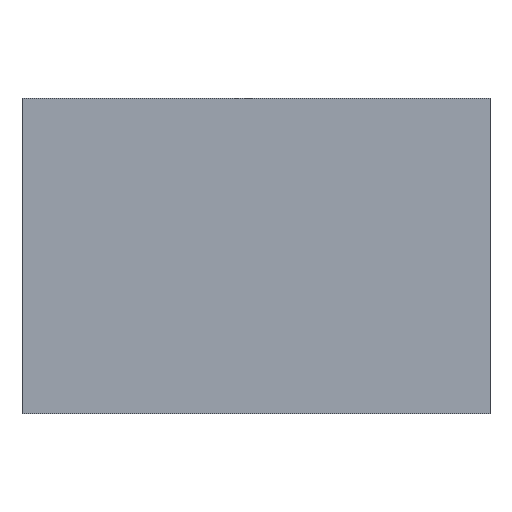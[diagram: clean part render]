
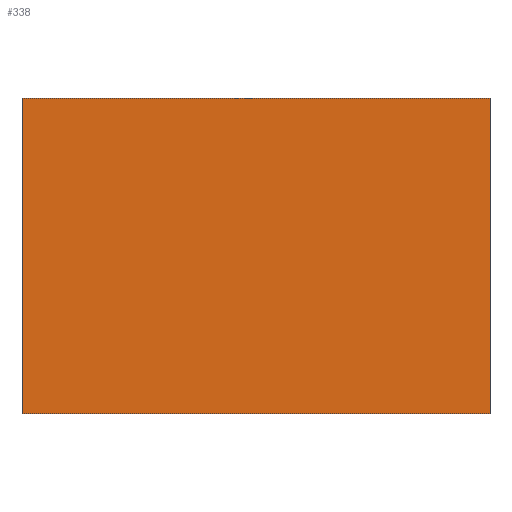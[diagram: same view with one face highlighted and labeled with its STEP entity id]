
A CAD part, top view. The second image highlights one B-rep face of the part: STEP entity #338.
In plain terms, the highlighted planar face has unit normal (0, 0, 1).
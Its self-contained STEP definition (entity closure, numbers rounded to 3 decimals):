
#24 = VERTEX_POINT('',#25);
#25 = CARTESIAN_POINT('',(-20.,-9.5,1.6));
#32 = PLANE('',#33);
#33 = AXIS2_PLACEMENT_3D('',#34,#35,#36);
#34 = CARTESIAN_POINT('',(-20.,-9.5,0.));
#35 = DIRECTION('',(1.,0.,0.));
#36 = DIRECTION('',(0.,0.,1.));
#44 = PLANE('',#45);
#45 = AXIS2_PLACEMENT_3D('',#46,#47,#48);
#46 = CARTESIAN_POINT('',(-20.,-9.5,0.));
#47 = DIRECTION('',(0.,1.,0.));
#48 = DIRECTION('',(0.,0.,1.));
#85 = VERTEX_POINT('',#86);
#86 = CARTESIAN_POINT('',(-20.,17.5,1.6));
#100 = PLANE('',#101);
#101 = AXIS2_PLACEMENT_3D('',#102,#103,#104);
#102 = CARTESIAN_POINT('',(-20.,17.5,0.));
#103 = DIRECTION('',(0.,1.,0.));
#104 = DIRECTION('',(0.,0.,1.));
#112 = EDGE_CURVE('',#24,#85,#113,.T.);
#113 = SURFACE_CURVE('',#114,(#118,#125),.PCURVE_S1.);
#114 = LINE('',#115,#116);
#115 = CARTESIAN_POINT('',(-20.,-9.5,1.6));
#116 = VECTOR('',#117,1.);
#117 = DIRECTION('',(0.,1.,0.));
#118 = PCURVE('',#32,#119);
#119 = DEFINITIONAL_REPRESENTATION('',(#120),#124);
#120 = LINE('',#121,#122);
#121 = CARTESIAN_POINT('',(1.6,0.));
#122 = VECTOR('',#123,1.);
#123 = DIRECTION('',(0.,-1.));
#124 = ( GEOMETRIC_REPRESENTATION_CONTEXT(2) 
PARAMETRIC_REPRESENTATION_CONTEXT() REPRESENTATION_CONTEXT('2D SPACE',''
  ) );
#125 = PCURVE('',#126,#131);
#126 = PLANE('',#127);
#127 = AXIS2_PLACEMENT_3D('',#128,#129,#130);
#128 = CARTESIAN_POINT('',(-20.,-9.5,1.6));
#129 = DIRECTION('',(0.,0.,1.));
#130 = DIRECTION('',(1.,0.,0.));
#131 = DEFINITIONAL_REPRESENTATION('',(#132),#136);
#132 = LINE('',#133,#134);
#133 = CARTESIAN_POINT('',(0.,0.));
#134 = VECTOR('',#135,1.);
#135 = DIRECTION('',(0.,1.));
#136 = ( GEOMETRIC_REPRESENTATION_CONTEXT(2) 
PARAMETRIC_REPRESENTATION_CONTEXT() REPRESENTATION_CONTEXT('2D SPACE',''
  ) );
#144 = VERTEX_POINT('',#145);
#145 = CARTESIAN_POINT('',(20.,-9.5,1.6));
#152 = PLANE('',#153);
#153 = AXIS2_PLACEMENT_3D('',#154,#155,#156);
#154 = CARTESIAN_POINT('',(20.,-9.5,0.));
#155 = DIRECTION('',(1.,0.,0.));
#156 = DIRECTION('',(0.,0.,1.));
#195 = VERTEX_POINT('',#196);
#196 = CARTESIAN_POINT('',(20.,17.5,1.6));
#217 = EDGE_CURVE('',#144,#195,#218,.T.);
#218 = SURFACE_CURVE('',#219,(#223,#230),.PCURVE_S1.);
#219 = LINE('',#220,#221);
#220 = CARTESIAN_POINT('',(20.,-9.5,1.6));
#221 = VECTOR('',#222,1.);
#222 = DIRECTION('',(0.,1.,0.));
#223 = PCURVE('',#152,#224);
#224 = DEFINITIONAL_REPRESENTATION('',(#225),#229);
#225 = LINE('',#226,#227);
#226 = CARTESIAN_POINT('',(1.6,0.));
#227 = VECTOR('',#228,1.);
#228 = DIRECTION('',(0.,-1.));
#229 = ( GEOMETRIC_REPRESENTATION_CONTEXT(2) 
PARAMETRIC_REPRESENTATION_CONTEXT() REPRESENTATION_CONTEXT('2D SPACE',''
  ) );
#230 = PCURVE('',#126,#231);
#231 = DEFINITIONAL_REPRESENTATION('',(#232),#236);
#232 = LINE('',#233,#234);
#233 = CARTESIAN_POINT('',(40.,0.));
#234 = VECTOR('',#235,1.);
#235 = DIRECTION('',(0.,1.));
#236 = ( GEOMETRIC_REPRESENTATION_CONTEXT(2) 
PARAMETRIC_REPRESENTATION_CONTEXT() REPRESENTATION_CONTEXT('2D SPACE',''
  ) );
#263 = EDGE_CURVE('',#24,#144,#264,.T.);
#264 = SURFACE_CURVE('',#265,(#269,#276),.PCURVE_S1.);
#265 = LINE('',#266,#267);
#266 = CARTESIAN_POINT('',(-20.,-9.5,1.6));
#267 = VECTOR('',#268,1.);
#268 = DIRECTION('',(1.,0.,0.));
#269 = PCURVE('',#44,#270);
#270 = DEFINITIONAL_REPRESENTATION('',(#271),#275);
#271 = LINE('',#272,#273);
#272 = CARTESIAN_POINT('',(1.6,0.));
#273 = VECTOR('',#274,1.);
#274 = DIRECTION('',(0.,1.));
#275 = ( GEOMETRIC_REPRESENTATION_CONTEXT(2) 
PARAMETRIC_REPRESENTATION_CONTEXT() REPRESENTATION_CONTEXT('2D SPACE',''
  ) );
#276 = PCURVE('',#126,#277);
#277 = DEFINITIONAL_REPRESENTATION('',(#278),#282);
#278 = LINE('',#279,#280);
#279 = CARTESIAN_POINT('',(0.,0.));
#280 = VECTOR('',#281,1.);
#281 = DIRECTION('',(1.,0.));
#282 = ( GEOMETRIC_REPRESENTATION_CONTEXT(2) 
PARAMETRIC_REPRESENTATION_CONTEXT() REPRESENTATION_CONTEXT('2D SPACE',''
  ) );
#310 = EDGE_CURVE('',#85,#195,#311,.T.);
#311 = SURFACE_CURVE('',#312,(#316,#323),.PCURVE_S1.);
#312 = LINE('',#313,#314);
#313 = CARTESIAN_POINT('',(-20.,17.5,1.6));
#314 = VECTOR('',#315,1.);
#315 = DIRECTION('',(1.,0.,0.));
#316 = PCURVE('',#100,#317);
#317 = DEFINITIONAL_REPRESENTATION('',(#318),#322);
#318 = LINE('',#319,#320);
#319 = CARTESIAN_POINT('',(1.6,0.));
#320 = VECTOR('',#321,1.);
#321 = DIRECTION('',(0.,1.));
#322 = ( GEOMETRIC_REPRESENTATION_CONTEXT(2) 
PARAMETRIC_REPRESENTATION_CONTEXT() REPRESENTATION_CONTEXT('2D SPACE',''
  ) );
#323 = PCURVE('',#126,#324);
#324 = DEFINITIONAL_REPRESENTATION('',(#325),#329);
#325 = LINE('',#326,#327);
#326 = CARTESIAN_POINT('',(0.,27.));
#327 = VECTOR('',#328,1.);
#328 = DIRECTION('',(1.,0.));
#329 = ( GEOMETRIC_REPRESENTATION_CONTEXT(2) 
PARAMETRIC_REPRESENTATION_CONTEXT() REPRESENTATION_CONTEXT('2D SPACE',''
  ) );
#338 = ADVANCED_FACE('',(#339),#126,.T.);
#339 = FACE_BOUND('',#340,.T.);
#340 = EDGE_LOOP('',(#341,#342,#343,#344));
#341 = ORIENTED_EDGE('',*,*,#112,.F.);
#342 = ORIENTED_EDGE('',*,*,#263,.T.);
#343 = ORIENTED_EDGE('',*,*,#217,.T.);
#344 = ORIENTED_EDGE('',*,*,#310,.F.);
